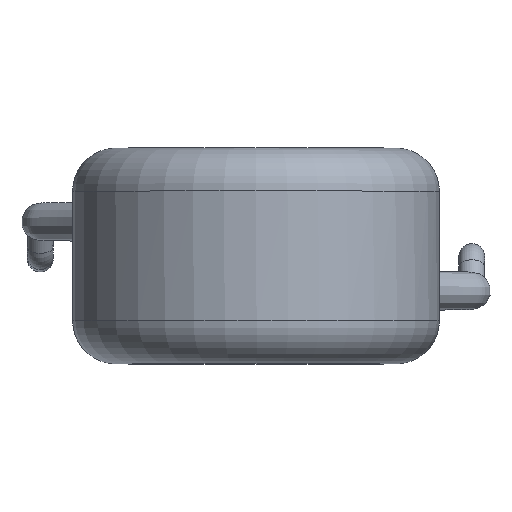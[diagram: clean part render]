
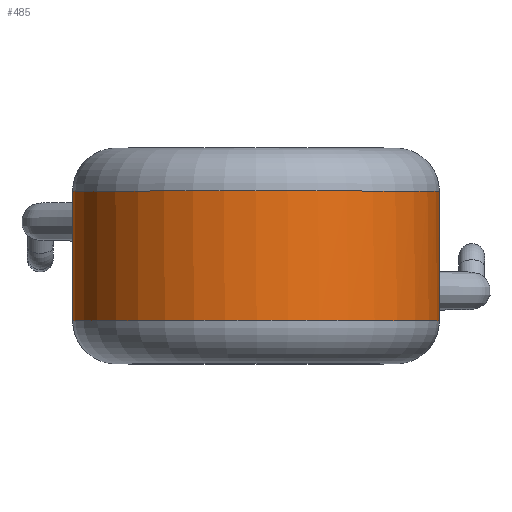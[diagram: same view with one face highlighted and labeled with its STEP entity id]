
A CAD part, top view. The second image highlights one B-rep face of the part: STEP entity #485.
In plain terms, the highlighted cylindrical face has radius 4.25 mm (diameter 8.5 mm), a full revolution.
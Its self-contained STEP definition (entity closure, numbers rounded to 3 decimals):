
#48=LINE('',#2279,#53);
#53=VECTOR('',#676,4.25);
#62=CYLINDRICAL_SURFACE('',#559,4.25);
#86=FACE_OUTER_BOUND('',#117,.T.);
#117=EDGE_LOOP('',(#412,#413,#414,#415,#416,#417,#418,#419,#420,#421,#422,
#423));
#145=CIRCLE('',#543,4.25);
#146=CIRCLE('',#544,4.25);
#147=CIRCLE('',#545,4.25);
#153=CIRCLE('',#552,4.25);
#154=CIRCLE('',#553,4.25);
#155=CIRCLE('',#554,4.25);
#177=B_SPLINE_CURVE_WITH_KNOTS('',3,(#966,#967,#968,#969,#970,#971,#972,
#973,#974,#975,#976,#977,#978,#979,#980,#981,#982,#983,#984,#985,#986,#987,
#988,#989,#990),.UNSPECIFIED.,.F.,.F.,(4,3,3,3,3,3,3,3,4),(-0.121,
-0.087,-0.054,-0.05,-0.045,
-0.037,-0.02,-0.003,-0.001),
 .UNSPECIFIED.);
#178=B_SPLINE_CURVE_WITH_KNOTS('',3,(#991,#992,#993,#994,#995,#996,#997,
#998,#999),.UNSPECIFIED.,.F.,.F.,(4,1,1,1,1,1,4),(-0.293,-0.279,
-0.245,-0.229,-0.212,-0.195,
-0.178),.UNSPECIFIED.);
#186=B_SPLINE_CURVE_WITH_KNOTS('',3,(#1640,#1641,#1642,#1643,#1644,#1645,
#1646,#1647,#1648,#1649,#1650,#1651,#1652,#1653,#1654,#1655),
 .UNSPECIFIED.,.F.,.F.,(4,3,3,3,3,4),(-0.121,-0.087,
-0.054,-0.037,-0.02,-0.001),
 .UNSPECIFIED.);
#187=B_SPLINE_CURVE_WITH_KNOTS('',3,(#1656,#1657,#1658,#1659,#1660,#1661,
#1662,#1663,#1664,#1665,#1666),.UNSPECIFIED.,.F.,.F.,(4,1,1,1,1,1,1,1,4),
(-0.293,-0.279,-0.262,-0.254,
-0.25,-0.248,-0.245,-0.212,
-0.178),.UNSPECIFIED.);
#207=VERTEX_POINT('',#892);
#212=VERTEX_POINT('',#963);
#213=VERTEX_POINT('',#965);
#217=VERTEX_POINT('',#1479);
#218=VERTEX_POINT('',#1482);
#219=VERTEX_POINT('',#1561);
#224=VERTEX_POINT('',#1637);
#225=VERTEX_POINT('',#1639);
#229=VERTEX_POINT('',#2146);
#230=VERTEX_POINT('',#2149);
#266=EDGE_CURVE('',#212,#213,#177,.T.);
#267=EDGE_CURVE('',#213,#207,#178,.T.);
#274=EDGE_CURVE('',#217,#212,#145,.T.);
#275=EDGE_CURVE('',#207,#218,#146,.T.);
#276=EDGE_CURVE('',#218,#217,#147,.T.);
#283=EDGE_CURVE('',#224,#225,#186,.T.);
#284=EDGE_CURVE('',#225,#219,#187,.T.);
#291=EDGE_CURVE('',#229,#224,#153,.T.);
#292=EDGE_CURVE('',#219,#230,#154,.T.);
#293=EDGE_CURVE('',#230,#229,#155,.T.);
#298=EDGE_CURVE('',#230,#218,#48,.T.);
#412=ORIENTED_EDGE('',*,*,#283,.F.);
#413=ORIENTED_EDGE('',*,*,#291,.F.);
#414=ORIENTED_EDGE('',*,*,#293,.F.);
#415=ORIENTED_EDGE('',*,*,#298,.T.);
#416=ORIENTED_EDGE('',*,*,#275,.F.);
#417=ORIENTED_EDGE('',*,*,#267,.F.);
#418=ORIENTED_EDGE('',*,*,#266,.F.);
#419=ORIENTED_EDGE('',*,*,#274,.F.);
#420=ORIENTED_EDGE('',*,*,#276,.F.);
#421=ORIENTED_EDGE('',*,*,#298,.F.);
#422=ORIENTED_EDGE('',*,*,#292,.F.);
#423=ORIENTED_EDGE('',*,*,#284,.F.);
#485=ADVANCED_FACE('',(#86),#62,.T.);
#543=AXIS2_PLACEMENT_3D('',#1481,#642,#643);
#544=AXIS2_PLACEMENT_3D('',#1483,#644,#645);
#545=AXIS2_PLACEMENT_3D('',#1484,#646,#647);
#552=AXIS2_PLACEMENT_3D('',#2148,#660,#661);
#553=AXIS2_PLACEMENT_3D('',#2150,#662,#663);
#554=AXIS2_PLACEMENT_3D('',#2151,#664,#665);
#559=AXIS2_PLACEMENT_3D('',#2278,#674,#675);
#642=DIRECTION('center_axis',(0.,1.,0.));
#643=DIRECTION('ref_axis',(-1.,0.,0.));
#644=DIRECTION('center_axis',(0.,1.,0.));
#645=DIRECTION('ref_axis',(-1.,0.,0.));
#646=DIRECTION('center_axis',(0.,1.,0.));
#647=DIRECTION('ref_axis',(-1.,0.,0.));
#660=DIRECTION('center_axis',(0.,-1.,0.));
#661=DIRECTION('ref_axis',(-1.,0.,0.));
#662=DIRECTION('center_axis',(0.,-1.,0.));
#663=DIRECTION('ref_axis',(-1.,0.,0.));
#664=DIRECTION('center_axis',(0.,-1.,0.));
#665=DIRECTION('ref_axis',(-1.,0.,0.));
#674=DIRECTION('center_axis',(0.,-1.,0.));
#675=DIRECTION('ref_axis',(1.,0.,0.));
#676=DIRECTION('',(0.,1.,0.));
#892=CARTESIAN_POINT('',(-3.665,1.5,-2.151));
#963=CARTESIAN_POINT('',(-3.122,1.5,-2.883));
#965=CARTESIAN_POINT('',(-3.444,-0.054,-2.49));
#966=CARTESIAN_POINT('Ctrl Pts',(-3.122,1.5,-2.883));
#967=CARTESIAN_POINT('Ctrl Pts',(-3.017,1.381,-2.997));
#968=CARTESIAN_POINT('Ctrl Pts',(-2.934,1.197,-3.075));
#969=CARTESIAN_POINT('Ctrl Pts',(-2.903,0.995,-3.104));
#970=CARTESIAN_POINT('Ctrl Pts',(-2.871,0.793,-3.134));
#971=CARTESIAN_POINT('Ctrl Pts',(-2.891,0.574,-3.116));
#972=CARTESIAN_POINT('Ctrl Pts',(-2.956,0.391,-3.053));
#973=CARTESIAN_POINT('Ctrl Pts',(-2.964,0.368,-3.045));
#974=CARTESIAN_POINT('Ctrl Pts',(-2.973,0.346,-3.037));
#975=CARTESIAN_POINT('Ctrl Pts',(-2.983,0.324,-3.027));
#976=CARTESIAN_POINT('Ctrl Pts',(-2.992,0.303,-3.018));
#977=CARTESIAN_POINT('Ctrl Pts',(-3.002,0.282,-3.008));
#978=CARTESIAN_POINT('Ctrl Pts',(-3.012,0.262,-2.998));
#979=CARTESIAN_POINT('Ctrl Pts',(-3.033,0.221,-2.977));
#980=CARTESIAN_POINT('Ctrl Pts',(-3.057,0.184,-2.953));
#981=CARTESIAN_POINT('Ctrl Pts',(-3.081,0.15,-2.927));
#982=CARTESIAN_POINT('Ctrl Pts',(-3.131,0.083,-2.874));
#983=CARTESIAN_POINT('Ctrl Pts',(-3.187,0.03,-2.813));
#984=CARTESIAN_POINT('Ctrl Pts',(-3.245,-0.006,
-2.744));
#985=CARTESIAN_POINT('Ctrl Pts',(-3.303,-0.041,
-2.676));
#986=CARTESIAN_POINT('Ctrl Pts',(-3.362,-0.058,
-2.602));
#987=CARTESIAN_POINT('Ctrl Pts',(-3.418,-0.056,
-2.525));
#988=CARTESIAN_POINT('Ctrl Pts',(-3.427,-0.056,
-2.514));
#989=CARTESIAN_POINT('Ctrl Pts',(-3.435,-0.055,
-2.502));
#990=CARTESIAN_POINT('Ctrl Pts',(-3.444,-0.054,-2.49));
#991=CARTESIAN_POINT('Ctrl Pts',(-3.444,-0.054,
-2.49));
#992=CARTESIAN_POINT('Ctrl Pts',(-3.491,-0.048,
-2.425));
#993=CARTESIAN_POINT('Ctrl Pts',(-3.641,0.016,-2.205));
#994=CARTESIAN_POINT('Ctrl Pts',(-3.781,0.291,-1.944));
#995=CARTESIAN_POINT('Ctrl Pts',(-3.834,0.692,-1.834));
#996=CARTESIAN_POINT('Ctrl Pts',(-3.826,1.009,-1.85));
#997=CARTESIAN_POINT('Ctrl Pts',(-3.771,1.295,-1.962));
#998=CARTESIAN_POINT('Ctrl Pts',(-3.705,1.442,-2.084));
#999=CARTESIAN_POINT('Ctrl Pts',(-3.665,1.5,-2.151));
#1479=CARTESIAN_POINT('',(0.,1.5,4.25));
#1481=CARTESIAN_POINT('Origin',(0.,1.5,0.));
#1482=CARTESIAN_POINT('',(-4.25,1.5,0.));
#1483=CARTESIAN_POINT('Origin',(0.,1.5,0.));
#1484=CARTESIAN_POINT('Origin',(0.,1.5,0.));
#1561=CARTESIAN_POINT('',(3.665,-1.5,-2.151));
#1637=CARTESIAN_POINT('',(3.122,-1.5,-2.883));
#1639=CARTESIAN_POINT('',(3.444,0.054,-2.49));
#1640=CARTESIAN_POINT('Ctrl Pts',(3.122,-1.5,-2.883));
#1641=CARTESIAN_POINT('Ctrl Pts',(3.017,-1.381,-2.997));
#1642=CARTESIAN_POINT('Ctrl Pts',(2.934,-1.197,-3.075));
#1643=CARTESIAN_POINT('Ctrl Pts',(2.902,-0.995,-3.104));
#1644=CARTESIAN_POINT('Ctrl Pts',(2.871,-0.793,-3.134));
#1645=CARTESIAN_POINT('Ctrl Pts',(2.891,-0.573,-3.116));
#1646=CARTESIAN_POINT('Ctrl Pts',(2.956,-0.391,-3.053));
#1647=CARTESIAN_POINT('Ctrl Pts',(2.988,-0.3,-3.021));
#1648=CARTESIAN_POINT('Ctrl Pts',(3.032,-0.218,-2.979));
#1649=CARTESIAN_POINT('Ctrl Pts',(3.081,-0.15,-2.926));
#1650=CARTESIAN_POINT('Ctrl Pts',(3.131,-0.083,
-2.874));
#1651=CARTESIAN_POINT('Ctrl Pts',(3.187,-0.03,
-2.812));
#1652=CARTESIAN_POINT('Ctrl Pts',(3.245,0.005,-2.744));
#1653=CARTESIAN_POINT('Ctrl Pts',(3.311,0.046,-2.665));
#1654=CARTESIAN_POINT('Ctrl Pts',(3.379,0.062,-2.578));
#1655=CARTESIAN_POINT('Ctrl Pts',(3.443,0.054,-2.49));
#1656=CARTESIAN_POINT('Ctrl Pts',(3.443,0.054,-2.49));
#1657=CARTESIAN_POINT('Ctrl Pts',(3.491,0.048,-2.425));
#1658=CARTESIAN_POINT('Ctrl Pts',(3.589,0.007,
-2.282));
#1659=CARTESIAN_POINT('Ctrl Pts',(3.687,-0.12,-2.114));
#1660=CARTESIAN_POINT('Ctrl Pts',(3.743,-0.25,-2.012));
#1661=CARTESIAN_POINT('Ctrl Pts',(3.767,-0.323,-1.968));
#1662=CARTESIAN_POINT('Ctrl Pts',(3.778,-0.367,-1.945));
#1663=CARTESIAN_POINT('Ctrl Pts',(3.828,-0.568,-1.849));
#1664=CARTESIAN_POINT('Ctrl Pts',(3.85,-1.025,-1.801));
#1665=CARTESIAN_POINT('Ctrl Pts',(3.745,-1.383,-2.016));
#1666=CARTESIAN_POINT('Ctrl Pts',(3.665,-1.5,-2.151));
#2146=CARTESIAN_POINT('',(0.,-1.5,-4.25));
#2148=CARTESIAN_POINT('Origin',(0.,-1.5,0.));
#2149=CARTESIAN_POINT('',(-4.25,-1.5,0.));
#2150=CARTESIAN_POINT('Origin',(0.,-1.5,0.));
#2151=CARTESIAN_POINT('Origin',(0.,-1.5,0.));
#2278=CARTESIAN_POINT('Origin',(0.,0.,
0.));
#2279=CARTESIAN_POINT('',(-4.25,0.,0.));
